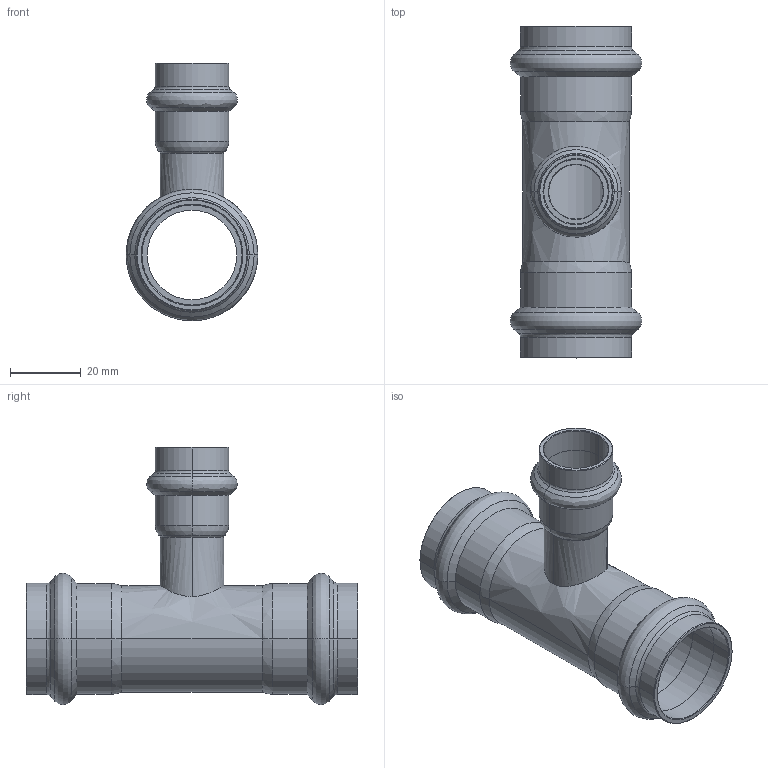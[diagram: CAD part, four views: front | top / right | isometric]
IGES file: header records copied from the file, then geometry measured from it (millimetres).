
Start section: Elysium IGES Interface
Global section: file name: C:\3d modellen sudo\C-Pr VP\SP8130RV\8130RVW281828.igs; native system: CoCreate Modeling 17.00A  17-Jun-2010; preprocessor: CoCreate IGES_3D V2.2; author: Unknown; organization: Unknown; date: 20130131.143849; units: millimetre
Bounding box: 37.2 x 93.81 x 72.78 mm (x, y, z)
Volume: 19969 mm3; surface area: 23381.1 mm2
Topology: 1 solids, 1 shells, 124 faces, 260 edges, 146 vertices
Faces by surface type: bspline 124
